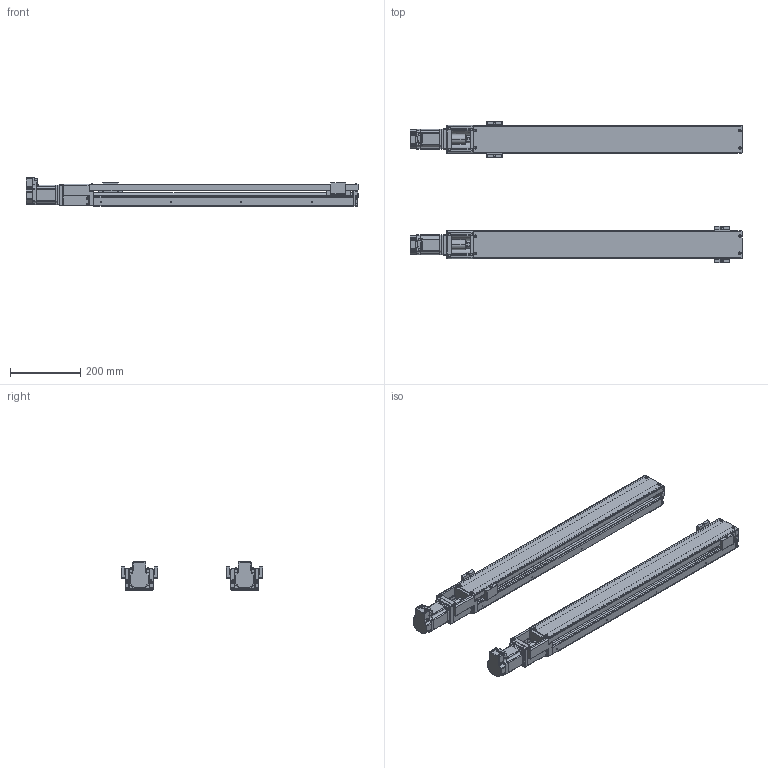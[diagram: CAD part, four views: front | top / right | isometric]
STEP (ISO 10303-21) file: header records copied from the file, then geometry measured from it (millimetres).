
FILE_DESCRIPTION(('STEP AP214'),'1');
FILE_NAME('D:\仕事\図面\SCKR6\tmp0.STEP',' ',(' '),(' '),'XStep 1.0',' ',' ');
FILE_SCHEMA(('automotive_design'));
Length unit declared in the file: millimetre
Bounding box: 945.01 x 404 x 82.36 mm (x, y, z)
Volume: 4299476.5 mm3; surface area: 1141243.2 mm2
Topology: 116 solids, 116 shells, 4262 faces, 10456 edges, 6426 vertices
Faces by surface type: cylinder 1832, plane 1360, torus 760, bspline 186, cone 92, sphere 32
Entity records: 174539 total; most frequent: CARTESIAN_POINT 33952, DIRECTION 23850, ORIENTED_EDGE 20784, EDGE_CURVE 10392, AXIS2_PLACEMENT_3D 9428, VERTEX_POINT 6426, LINE 4994, VECTOR 4994
